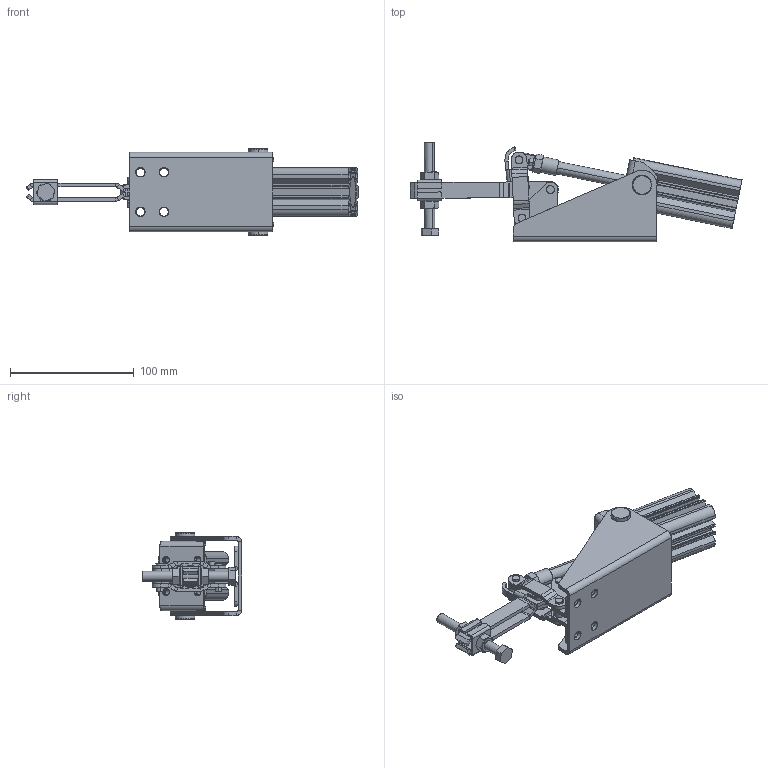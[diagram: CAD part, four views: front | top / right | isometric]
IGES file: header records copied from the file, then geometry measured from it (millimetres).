
Start section: SolidWorks IGES file using analytic representation for surfaces
Global section: file name: C:\Projetos\Grampos\KF-017 P\KF-017 DBL P\KF-017 DBL P.IGS; native system: SolidWorks 2015; preprocessor: SolidWorks 2015; author: Ricardo; date: 161215.085519; units: millimetre
Bounding box: 268.09 x 80.46 x 70 mm (x, y, z)
Surface area: 115414.9 mm2 (no closed solid volume)
Topology: 0 solids, 0 shells, 817 faces, 11470 edges, 11460 vertices
Faces by surface type: revolution 434, bspline 383
